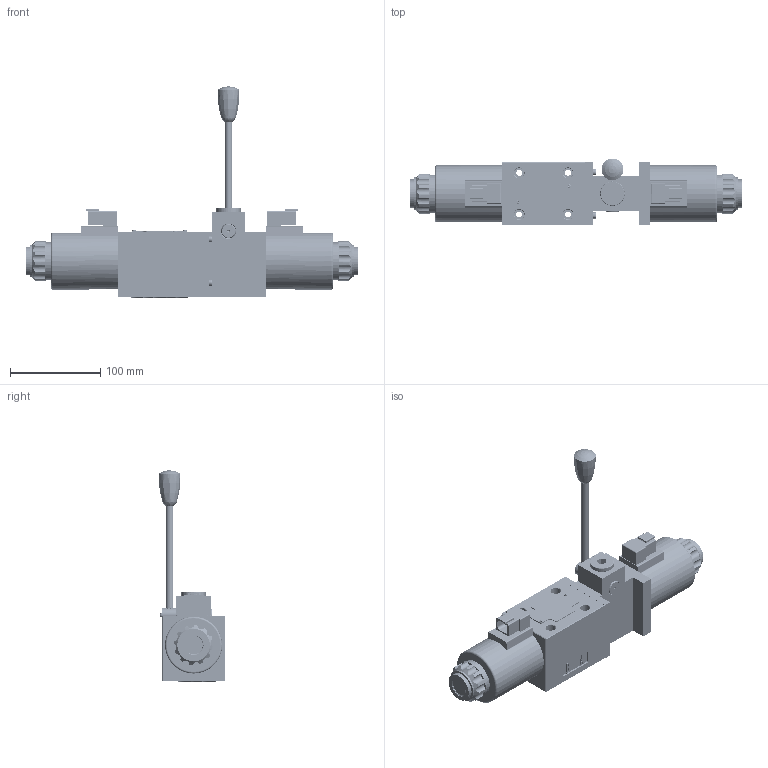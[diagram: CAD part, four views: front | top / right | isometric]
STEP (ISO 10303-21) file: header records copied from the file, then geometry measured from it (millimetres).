
FILE_DESCRIPTION(/* description */ (''),/* implementation_level */ '2;1');
FILE_NAME(/* name */ '4WEMM10-3XJ-FS三维模型.stp',/* time_stamp */ '2023-09-28T08:36:07+08:00',/* author */ (''),/* organization */ (''),/* preprocessor_version */ 'ST-DEVELOPER v16.7',/* originating_system */ 'SIEMENS PLM Software NX 12.0',/* authorisation */ '');
FILE_SCHEMA (('AUTOMOTIVE_DESIGN { 1 0 10303 214 3 1 1 1 }'));
Products named in the file (1): 4WEMM10-3XJ-FS三维模型
Bounding box: 367.1 x 73.5 x 233.74 mm (x, y, z)
Volume: 831460 mm3; surface area: 243616.9 mm2
Topology: 30 solids, 31 shells, 1262 faces, 3244 edges, 2102 vertices
Faces by surface type: plane 661, cylinder 378, cone 81, bspline 74, torus 59, sphere 8, extrusion 1
Full cylindrical faces by diameter (mm): 1.5 x6, 1.8 x4, 1.9 x2, 2.5 x1, 3 x2, 3.6 x9, 4 x3, 4.5 x4, 5 x2, 6 x2, 6.6 x4, 6.78 x4, 8 x2, 8.5 x1, 10 x1, 11 x9, 15.7 x5, 16 x6, 16.2 x1, 16.5 x3, 17 x3, 18 x4, 18.8 x2, 19 x1, 19.082 x1, 19.1 x2, 21 x4, 21.4 x3, 22 x1, 23 x1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
Entity records: 121259 total; most frequent: CARTESIAN_POINT 92279, ORIENTED_EDGE 5770, DIRECTION 5125, EDGE_CURVE 2885, AXIS2_PLACEMENT_3D 1999, VERTEX_POINT 1993, EDGE_LOOP 1603, ADVANCED_FACE 1250
